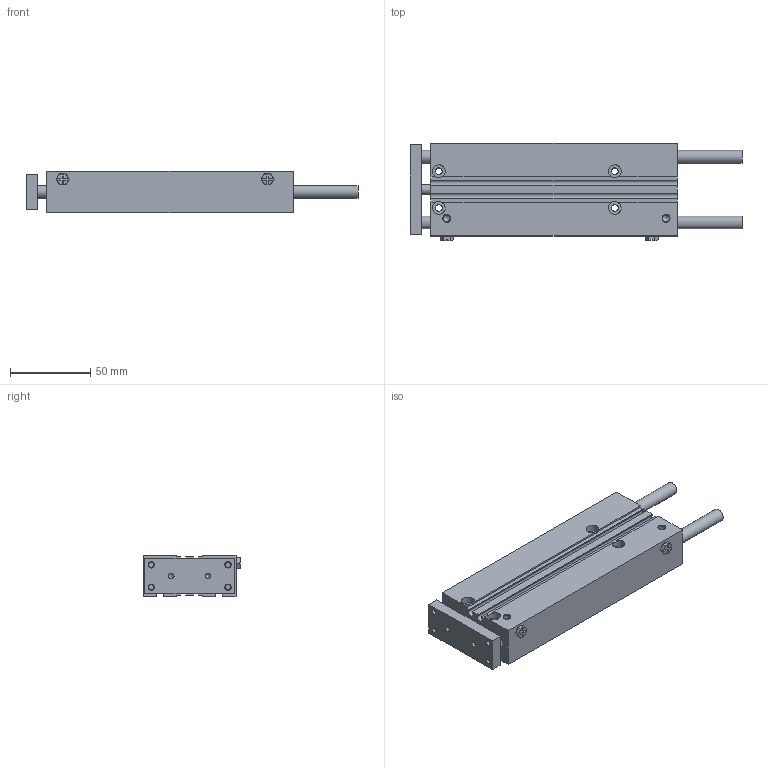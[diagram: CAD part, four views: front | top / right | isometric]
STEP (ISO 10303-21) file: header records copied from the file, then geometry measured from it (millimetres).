
FILE_DESCRIPTION(/* description */ ('STEP AP214'),/* implementation_level */ '2;1');
FILE_NAME(/* name */ 'MGPM12-125Z(0_0)',/* time_stamp */ '2025-08-27T06:02:17+02:00',/* author */ ('License CC BY-ND 4.0'),/* organization */ ('CADENAS'),/* preprocessor_version */ 'ST-DEVELOPER v19.3',/* originating_system */ 'PARTsolutions',/* authorisation */ ' ');
FILE_SCHEMA (('AUTOMOTIVE_DESIGN {1 0 10303 214 3 1 1}'));
Length unit declared in the file: millimetre
Products named in the file (4): MGPM12-125Z(0_0); MGPM12-125Z(0)_BODY; MGPM12-125Z(0)_ROD; M-5P_MGP
Assembly tree (4 placements, depth 2):
  MGPM12-125Z(0_0)
    MGPM12-125Z(0)_BODY
    MGPM12-125Z(0)_ROD
    M-5P_MGP  x2
Bounding box: 207.5 x 61 x 26 mm (x, y, z)
Volume: 207153.6 mm3; surface area: 71988.9 mm2
Topology: 4 solids, 4 shells, 244 faces, 596 edges, 376 vertices
Faces by surface type: plane 124, cone 66, cylinder 54
Full cylindrical faces by diameter (mm): 3 x6, 3.242 x8, 4.134 x8, 4.3 x4, 4.4 x2, 5 x2, 6 x4, 8 x8, 12 x2
Entity records: 5575 total; most frequent: CARTESIAN_POINT 1009, DIRECTION 926, ORIENTED_EDGE 798, EDGE_CURVE 399, AXIS2_PLACEMENT_3D 352, FACE_BOUND 326, EDGE_LOOP 312, VERTEX_POINT 307
